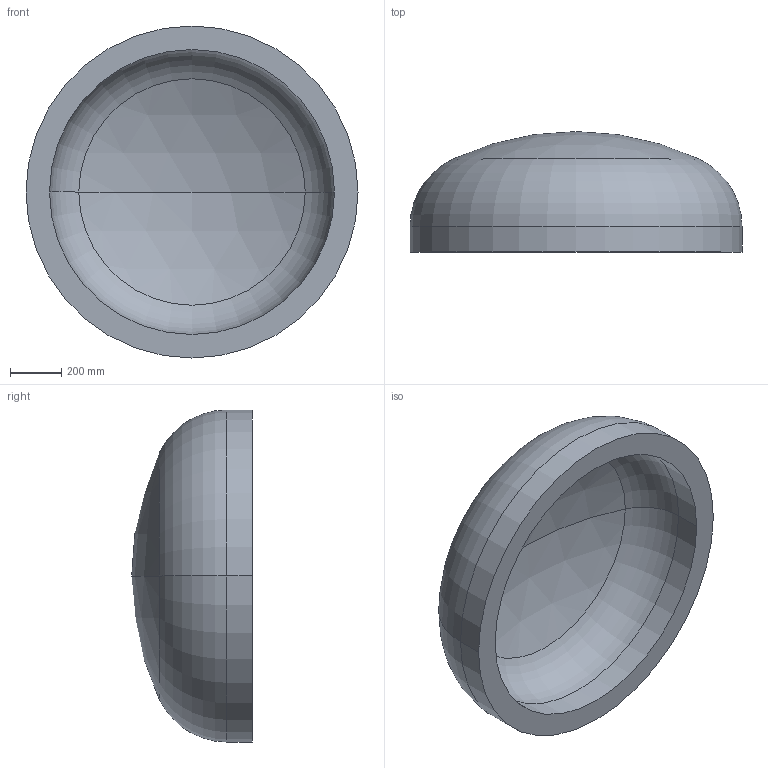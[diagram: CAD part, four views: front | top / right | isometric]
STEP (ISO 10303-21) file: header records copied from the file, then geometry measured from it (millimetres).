
FILE_DESCRIPTION (( 'STEP AP203' ), '1' );
FILE_NAME ('DIN 28013 Korbbogenform_-_Boden DIN 28013 - 1300 x 100 - I - s=92.step', '2016-07-01T10:00:46', ( '' ), ( '' ), 'SwSTEP 2.0', 'SolidWorks 2013', '' );
FILE_SCHEMA (( 'CONFIG_CONTROL_DESIGN' ));
Length unit declared in the file: millimetre
Products named in the file (1): DIN 28013 Korbbogenform_-_Boden DIN 28013 - 1300 x 100 - I - s=92
Bounding box: 1300 x 472.11 x 1300 mm (x, y, z)
Volume: 189536378.4 mm3; surface area: 4487226.2 mm2
Topology: 1 solids, 1 shells, 13 faces, 24 edges, 14 vertices
Faces by surface type: torus 4, cylinder 4, sphere 4, plane 1
Entity records: 407 total; most frequent: DIRECTION 72, CARTESIAN_POINT 52, ORIENTED_EDGE 48, AXIS2_PLACEMENT_3D 34, EDGE_CURVE 24, CIRCLE 20, VERTEX_POINT 14, EDGE_LOOP 14
